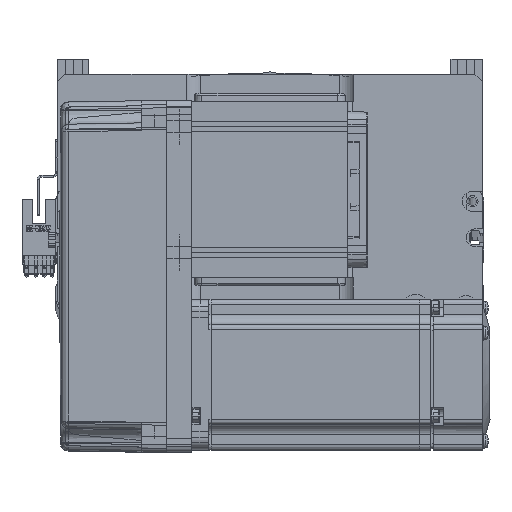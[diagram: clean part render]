
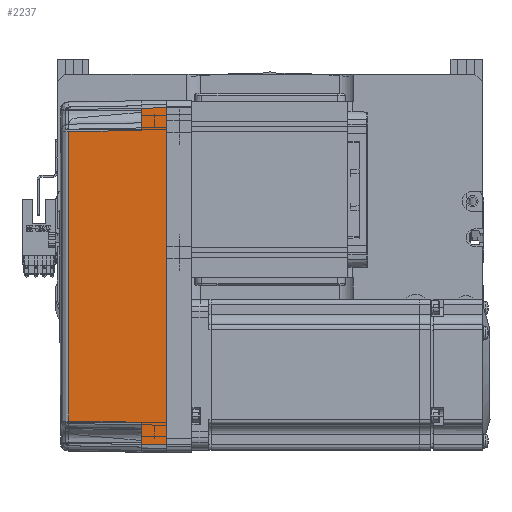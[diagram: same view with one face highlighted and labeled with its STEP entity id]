
A CAD part, top view. The second image highlights one B-rep face of the part: STEP entity #2237.
In plain terms, the highlighted planar face has unit normal (-0.018, 0, 1) as drawn and (0, -1, 0.017) by its records, which use the part's own axes.
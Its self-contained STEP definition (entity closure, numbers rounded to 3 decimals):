
#207 = EDGE_CURVE ( 'NONE', #62174, #59553, #22558, .T. ) ;
#1196 = CARTESIAN_POINT ( 'NONE',  ( -57.495, -35.32, 38.985 ) ) ;
#1216 = DIRECTION ( 'NONE',  ( -1., 0., 0. ) ) ;
#2237 = ADVANCED_FACE ( 'NONE', ( #37048 ), #40182, .T. ) ;
#3786 = EDGE_LOOP ( 'NONE', ( #14266, #49575, #15342, #7642, #39323, #38322, #22795, #6135 ) ) ;
#3881 = CARTESIAN_POINT ( 'NONE',  ( 66.826, -35.825, 10. ) ) ;
#6135 = ORIENTED_EDGE ( 'NONE', *, *, #21832, .F. ) ;
#6831 = VERTEX_POINT ( 'NONE', #29638 ) ;
#7292 = B_SPLINE_CURVE_WITH_KNOTS ( 'NONE', 3,
 ( #58966, #22068, #32152, #43416 ),
 .UNSPECIFIED., .F., .F.,
 ( 4, 4 ),
 ( 0., 1. ),
 .UNSPECIFIED. ) ;
#7642 = ORIENTED_EDGE ( 'NONE', *, *, #32519, .T. ) ;
#7827 = DIRECTION ( 'NONE',  ( -1., 0., 0. ) ) ;
#9450 = CARTESIAN_POINT ( 'NONE',  ( -66.826, -35.825, 10. ) ) ;
#13937 = LINE ( 'NONE', #22641, #50790 ) ;
#14266 = ORIENTED_EDGE ( 'NONE', *, *, #54041, .T. ) ;
#14347 = LINE ( 'NONE', #39180, #26599 ) ;
#14657 = CARTESIAN_POINT ( 'NONE',  ( -58., -35.825, 10. ) ) ;
#15342 = ORIENTED_EDGE ( 'NONE', *, *, #50579, .T. ) ;
#17666 = EDGE_CURVE ( 'NONE', #52893, #59553, #51382, .T. ) ;
#19758 = DIRECTION ( 'NONE',  ( 0., -1., 0.017 ) ) ;
#21832 = EDGE_CURVE ( 'NONE', #26543, #52893, #13937, .T. ) ;
#22068 = CARTESIAN_POINT ( 'NONE',  ( 19.165, -35.316, 39.181 ) ) ;
#22208 = CARTESIAN_POINT ( 'NONE',  ( 67., -36., 0. ) ) ;
#22326 = LINE ( 'NONE', #54694, #51883 ) ;
#22558 = LINE ( 'NONE', #66534, #62708 ) ;
#22641 = CARTESIAN_POINT ( 'NONE',  ( 0., -36., 0. ) ) ;
#22795 = ORIENTED_EDGE ( 'NONE', *, *, #17666, .F. ) ;
#24813 = VERTEX_POINT ( 'NONE', #3881 ) ;
#24868 = VERTEX_POINT ( 'NONE', #66353 ) ;
#25105 = DIRECTION ( 'NONE',  ( -1., 0., 0. ) ) ;
#26543 = VERTEX_POINT ( 'NONE', #49041 ) ;
#26599 = VECTOR ( 'NONE', #7827, 1000. ) ;
#28338 = DIRECTION ( 'NONE',  ( -0.017, 0.017, 1. ) ) ;
#29638 = CARTESIAN_POINT ( 'NONE',  ( 58., -35.825, 10. ) ) ;
#29828 = DIRECTION ( 'NONE',  ( 0., -0.017, -1. ) ) ;
#31078 = EDGE_CURVE ( 'NONE', #24868, #62174, #42915, .T. ) ;
#32152 = CARTESIAN_POINT ( 'NONE',  ( -19.165, -35.316, 39.181 ) ) ;
#32519 = EDGE_CURVE ( 'NONE', #47586, #24868, #7292, .T. ) ;
#34506 = CARTESIAN_POINT ( 'NONE',  ( -66.959, -35.958, 2.39 ) ) ;
#35739 = EDGE_CURVE ( 'NONE', #24813, #6831, #14347, .T. ) ;
#37048 = FACE_OUTER_BOUND ( 'NONE', #3786, .T. ) ;
#38322 = ORIENTED_EDGE ( 'NONE', *, *, #207, .T. ) ;
#39180 = CARTESIAN_POINT ( 'NONE',  ( 70., -35.825, 10. ) ) ;
#39323 = ORIENTED_EDGE ( 'NONE', *, *, #31078, .T. ) ;
#40182 = PLANE ( 'NONE',  #40667 ) ;
#40667 = AXIS2_PLACEMENT_3D ( 'NONE', #56018, #19758, #29828 ) ;
#40726 = VECTOR ( 'NONE', #45059, 1000. ) ;
#41577 = CARTESIAN_POINT ( 'NONE',  ( 57.495, -35.32, 38.985 ) ) ;
#42915 = LINE ( 'NONE', #1196, #60082 ) ;
#43416 = CARTESIAN_POINT ( 'NONE',  ( -57.495, -35.32, 38.985 ) ) ;
#43515 = DIRECTION ( 'NONE',  ( -0.017, -0.017, -1. ) ) ;
#43776 = DIRECTION ( 'NONE',  ( -0.017, 0.017, 1. ) ) ;
#45059 = DIRECTION ( 'NONE',  ( 0.017, 0.017, 1. ) ) ;
#47586 = VERTEX_POINT ( 'NONE', #41577 ) ;
#49041 = CARTESIAN_POINT ( 'NONE',  ( 67., -36., 0. ) ) ;
#49575 = ORIENTED_EDGE ( 'NONE', *, *, #35739, .T. ) ;
#50579 = EDGE_CURVE ( 'NONE', #6831, #47586, #22326, .T. ) ;
#50790 = VECTOR ( 'NONE', #1216, 1000. ) ;
#50995 = LINE ( 'NONE', #22208, #58324 ) ;
#51382 = LINE ( 'NONE', #34506, #40726 ) ;
#51883 = VECTOR ( 'NONE', #28338, 1000. ) ;
#52893 = VERTEX_POINT ( 'NONE', #66369 ) ;
#54041 = EDGE_CURVE ( 'NONE', #26543, #24813, #50995, .T. ) ;
#54694 = CARTESIAN_POINT ( 'NONE',  ( 58., -35.825, 10. ) ) ;
#56018 = CARTESIAN_POINT ( 'NONE',  ( 70., -36., 0. ) ) ;
#58324 = VECTOR ( 'NONE', #43776, 1000. ) ;
#58966 = CARTESIAN_POINT ( 'NONE',  ( 57.495, -35.32, 38.985 ) ) ;
#59553 = VERTEX_POINT ( 'NONE', #9450 ) ;
#60082 = VECTOR ( 'NONE', #43515, 1000. ) ;
#62174 = VERTEX_POINT ( 'NONE', #14657 ) ;
#62708 = VECTOR ( 'NONE', #25105, 1000. ) ;
#66353 = CARTESIAN_POINT ( 'NONE',  ( -57.495, -35.32, 38.985 ) ) ;
#66369 = CARTESIAN_POINT ( 'NONE',  ( -67., -36., 0. ) ) ;
#66534 = CARTESIAN_POINT ( 'NONE',  ( 70., -35.825, 10. ) ) ;
